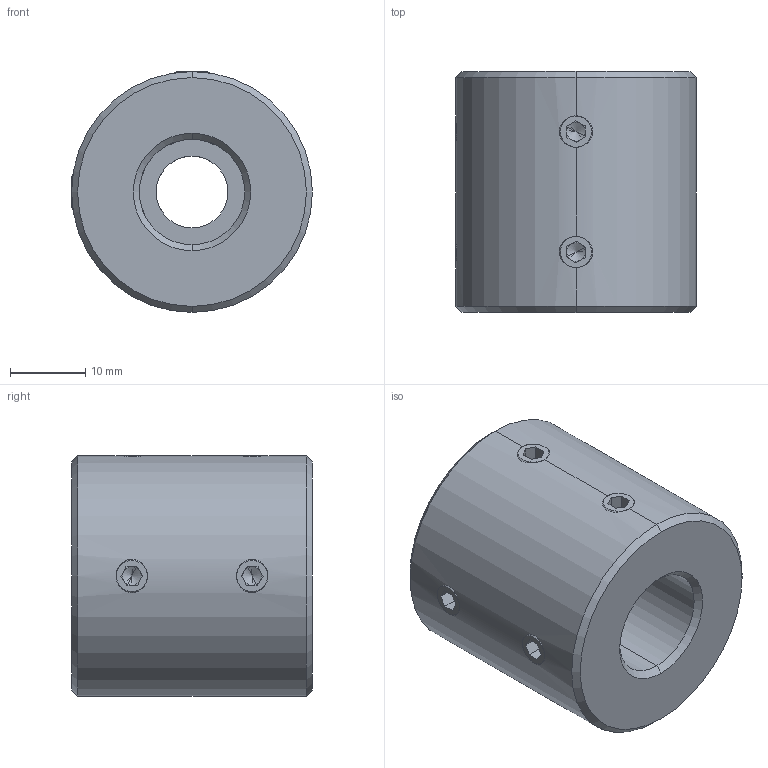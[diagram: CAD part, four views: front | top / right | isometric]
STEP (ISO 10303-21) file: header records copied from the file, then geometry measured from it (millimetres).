
FILE_DESCRIPTION (( 'STEP AP214' ), '1' );
FILE_NAME ('LL-D-D32L32-9.525-14½¨Ä£.STEP', '2022-07-22T11:27:34', ( '' ), ( '' ), 'SwSTEP 2.0', 'SolidWorks 2022', '' );
FILE_SCHEMA (( 'AUTOMOTIVE_DESIGN' ));
Length unit declared in the file: millimetre
Products named in the file (1): LL-D-D32L32-9.525-14膘耀
Bounding box: 32 x 32 x 32 mm (x, y, z)
Volume: 21872.8 mm3; surface area: 5957.8 mm2
Topology: 1 solids, 1 shells, 113 faces, 286 edges, 176 vertices
Faces by surface type: plane 59, cone 32, cylinder 22
Entity records: 3748 total; most frequent: CARTESIAN_POINT 1038, DIRECTION 558, ORIENTED_EDGE 556, EDGE_CURVE 278, AXIS2_PLACEMENT_3D 206, VERTEX_POINT 176, VECTOR 146, LINE 146
